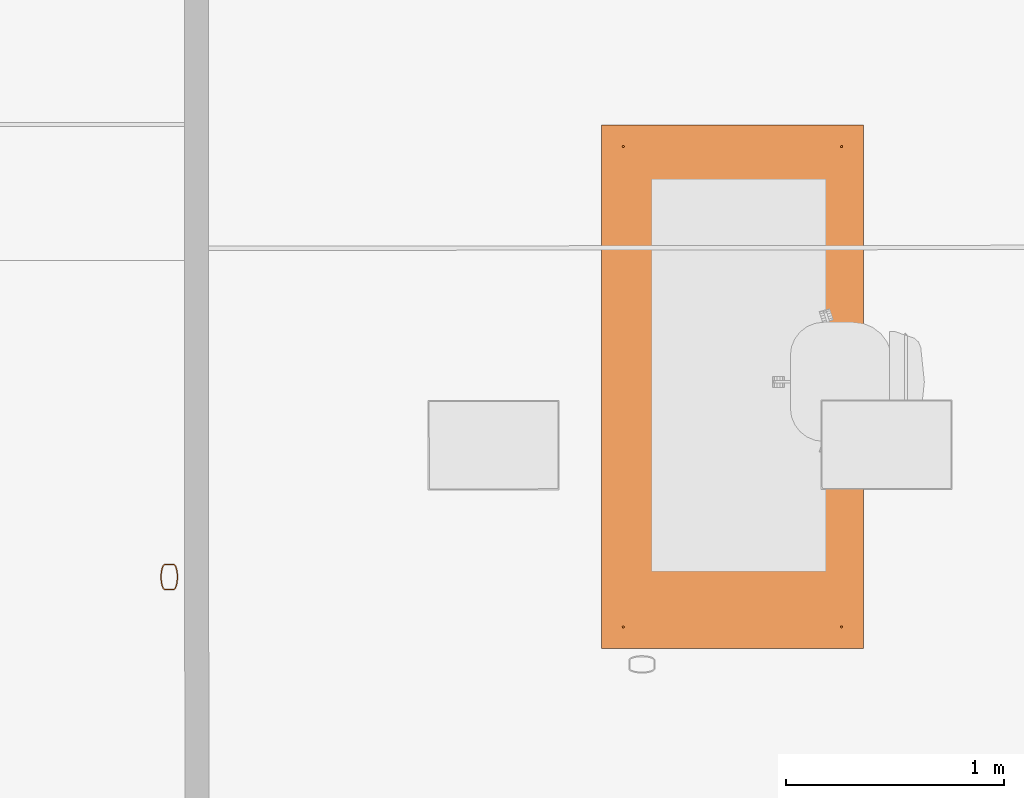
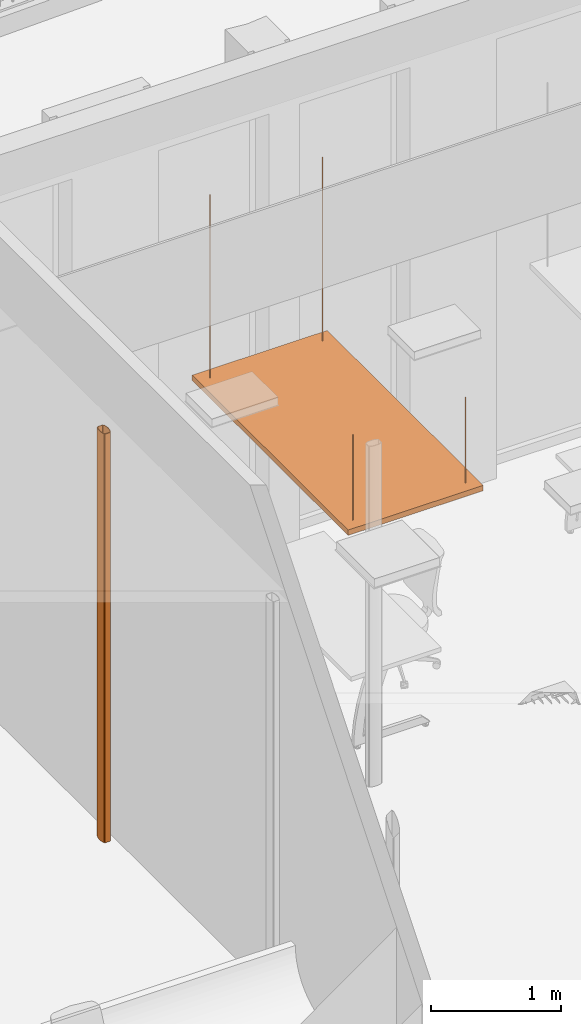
# One storey, part 127 of 128: 2 proxies.
"""IFC2X3 building model written with IfcOpenShell, lengths in metres."""

import ifcopenshell
import ifcopenshell.guid

model = None  # the IFC model being written
_history = None  # IfcOwnerHistory: only IFC2X3 demands one
_inside = {}  # id of a spatial element -> (the spatial element, [elements in it])
_under = {}  # id of a project, library or spatial element -> (it, [spatial elements below it])
_declared = {}  # id of a project -> (the project, [libraries it declares])
_typed = {}  # id of a type object -> (the type object, [elements of that type])
_made_of = {}  # id of a material, layer set ... -> (it, [elements and type objects made of it])


def new_model(schema):
    """Start an empty IFC model of exactly this schema.

    Asked for "IFC4X3", IfcOpenShell would pick the latest addendum, in which some entities
    have other attributes; the version numbers below select the first issue.
    IFC2X3 requires an IfcOwnerHistory on every rooted entity: one is made here for all.
    """
    global model, _history
    if schema == "IFC4X3":
        model = ifcopenshell.file(schema_version=(4, 3, 0, 0))
    else:
        model = ifcopenshell.file(schema=schema)
    _inside.clear()
    _under.clear()
    _declared.clear()
    _typed.clear()
    _made_of.clear()
    _history = None
    if model.schema == "IFC2X3":
        org = make("IfcOrganization", Name="unknown")
        user = make(
            "IfcPersonAndOrganization",
            ThePerson=make("IfcPerson", FamilyName="unknown"),
            TheOrganization=org,
        )
        app = make(
            "IfcApplication",
            ApplicationDeveloper=org,
            Version="unknown",
            ApplicationFullName="unknown",
            ApplicationIdentifier="unknown",
        )
        _history = make(
            "IfcOwnerHistory",
            OwningUser=user,
            OwningApplication=app,
            ChangeAction="ADDED",
            CreationDate=0,
        )
    return model


def make(cls, **values):
    """One entity of the class cls with the attributes given. An attribute that is None is left unset."""
    return model.create_entity(
        cls, **{name: value for name, value in values.items() if value is not None}
    )


def entity(cls, *values):
    """Any entity or typed value of the class cls, its attributes in the order of the schema. None: left unset."""
    e = model.create_entity(cls)
    for i, value in enumerate(values):
        if value is not None:
            e[i] = value
    return e


def rooted(cls, **values):
    """An entity with a GlobalId (a new one), such as an element, a storey or a relation."""
    return make(cls, GlobalId=ifcopenshell.guid.new(), OwnerHistory=_history, **values)


def si_unit(unit_type, name, prefix=None):
    """IfcSIUnit, for example si_unit("LENGTHUNIT", "METRE", prefix="MILLI")."""
    return make("IfcSIUnit", UnitType=unit_type, Prefix=prefix, Name=name)


def converted_unit(unit_type, name, factor, base, dimensions=None, offset=None):
    """IfcConversionBasedUnit, such as the inch: factor (a typed value) times the base unit."""
    return make(
        "IfcConversionBasedUnit"
        if offset is None
        else "IfcConversionBasedUnitWithOffset",
        ConversionOffset=offset,
        Dimensions=None
        if dimensions is None
        else entity("IfcDimensionalExponents", *dimensions),
        UnitType=unit_type,
        Name=name,
        ConversionFactor=make(
            "IfcMeasureWithUnit", ValueComponent=factor, UnitComponent=base
        ),
    )


def derived_unit(unit_type, elements):
    """IfcDerivedUnit: a product of units, each with its exponent."""
    return make(
        "IfcDerivedUnit",
        Elements=[
            make("IfcDerivedUnitElement", Unit=unit, Exponent=power)
            for unit, power in elements
        ],
        UnitType=unit_type,
    )


def assignment(units):
    """IfcUnitAssignment: the units of a project."""
    return None if units is None else make("IfcUnitAssignment", Units=units)


def point(xyz):
    """IfcCartesianPoint."""
    return None if xyz is None else make("IfcCartesianPoint", Coordinates=xyz)


def direction(xyz):
    """IfcDirection."""
    return None if xyz is None else make("IfcDirection", DirectionRatios=xyz)


def frame(location, z_axis=None, x_axis=None):
    """IfcAxis2Placement3D, a coordinate frame: its origin and axes. An axis left out is left unset."""
    return make(
        "IfcAxis2Placement3D",
        Location=point(location),
        Axis=direction(z_axis),
        RefDirection=direction(x_axis),
    )


def frame_2d(location, x_axis=None):
    """IfcAxis2Placement2D, a coordinate frame in the plane: its origin and x axis."""
    return make(
        "IfcAxis2Placement2D", Location=point(location), RefDirection=direction(x_axis)
    )


def origin():
    """The frame at (0, 0, 0) with its axes left unset."""
    return frame((0.0, 0.0, 0.0))


def origin_2d_with_axis():
    """The frame at (0, 0) in the plane with the x axis (1, 0) written out."""
    return frame_2d((0.0, 0.0), x_axis=(1.0, 0.0))


def place(relative_to, where):
    """IfcLocalPlacement: puts the frame where relative to a parent placement (None: the world)."""
    return make(
        "IfcLocalPlacement", PlacementRelTo=relative_to, RelativePlacement=where
    )


def context(
    kind, dimensions, precision=None, world=None, true_north=None, identifier=None
):
    """IfcGeometricRepresentationContext, for example the 3D "Model" context."""
    return make(
        "IfcGeometricRepresentationContext",
        ContextIdentifier=identifier,
        ContextType=kind,
        CoordinateSpaceDimension=dimensions,
        Precision=precision,
        WorldCoordinateSystem=world,
        TrueNorth=true_north,
    )


def subcontext(parent, identifier, kind, view, scale=None):
    """IfcGeometricRepresentationSubContext, for example "Body" below "Model"."""
    return make(
        "IfcGeometricRepresentationSubContext",
        ContextIdentifier=identifier,
        ContextType=kind,
        ParentContext=parent,
        TargetScale=scale,
        TargetView=view,
    )


def project(units=None, contexts=None):
    """IfcProject with its units and contexts."""
    return rooted(
        "IfcProject",
        Name="project",
        RepresentationContexts=contexts,
        UnitsInContext=assignment(units),
    )


def spatial(cls, under=None, at=None, **own):
    """A site, building, storey or space (cls), placed at a placement, below another one or the project."""
    s = rooted(cls, ObjectPlacement=at, **own)
    if under is not None:
        _under.setdefault(under.id(), (under, []))[1].append(s)
    return s


def polyline(points):
    """IfcPolyline through the points."""
    return make("IfcPolyline", Points=[point(p) for p in points])


def profile(cls, at=None, kind="AREA", **sizes):
    """A parametric profile (cls). Its sizes go by their IFC names, for example OverallWidth=200.0."""
    return make(cls, ProfileType=kind, Position=at, **sizes)


def rectangle(**sizes):
    """IfcRectangleProfileDef."""
    return profile("IfcRectangleProfileDef", **sizes)


def circle(**sizes):
    """IfcCircleProfileDef."""
    return profile("IfcCircleProfileDef", **sizes)


def outline(outer, holes=None, kind="AREA"):
    """IfcArbitraryClosedProfileDef: a profile drawn as a closed curve; with holes, ...WithVoids."""
    if holes is None:
        return make("IfcArbitraryClosedProfileDef", ProfileType=kind, OuterCurve=outer)
    return make(
        "IfcArbitraryProfileDefWithVoids",
        ProfileType=kind,
        OuterCurve=outer,
        InnerCurves=holes,
    )


def extrude(swept, where, along, depth):
    """IfcExtrudedAreaSolid: the profile swept, set in the frame where, extruded along a direction by depth."""
    return make(
        "IfcExtrudedAreaSolid",
        SweptArea=swept,
        Position=where,
        ExtrudedDirection=direction(along),
        Depth=depth,
    )


def shape(context_of_items, identifier, shape_type, items):
    """IfcShapeRepresentation: the items that make up one representation, for example the "Body"."""
    return make(
        "IfcShapeRepresentation",
        ContextOfItems=context_of_items,
        RepresentationIdentifier=identifier,
        RepresentationType=shape_type,
        Items=items,
    )


def source(mapping_origin, context_of_items, identifier, shape_type, items):
    """IfcRepresentationMap: a shape defined once, which mapped items show again and again."""
    return make(
        "IfcRepresentationMap",
        MappingOrigin=mapping_origin,
        MappedRepresentation=shape(context_of_items, identifier, shape_type, items),
    )


def transform(
    local_origin,
    x_axis=None,
    y_axis=None,
    z_axis=None,
    scale=None,
    scale2=None,
    scale3=None,
    uniform=True,
):
    """IfcCartesianTransformationOperator3D, or its non-uniform kind. x_axis, y_axis, z_axis: its Axis1, 2, 3."""
    if uniform:
        return make(
            "IfcCartesianTransformationOperator3D",
            Axis1=direction(x_axis),
            Axis2=direction(y_axis),
            LocalOrigin=point(local_origin),
            Scale=scale,
            Axis3=direction(z_axis),
        )
    return make(
        "IfcCartesianTransformationOperator3DnonUniform",
        Axis1=direction(x_axis),
        Axis2=direction(y_axis),
        LocalOrigin=point(local_origin),
        Scale=scale,
        Axis3=direction(z_axis),
        Scale2=scale2,
        Scale3=scale3,
    )


def mapped(mapping_source, mapping_target):
    """IfcMappedItem: shows the shape of a source again, moved by a transform."""
    return make(
        "IfcMappedItem", MappingSource=mapping_source, MappingTarget=mapping_target
    )


def material(Name=None, Category=None):
    """IfcMaterial."""
    return make("IfcMaterial", Name=Name, Category=Category)


def made_of(thing, what):
    """Note that an element or type object is made of a material, layer set ...; save() writes the relation."""
    if what is not None:
        _made_of.setdefault(what.id(), (what, []))[1].append(thing)
    return thing


def type_object(cls, material=None, **own):
    """A type object (cls), such as IfcWallType, which elements share."""
    return made_of(rooted(cls, **own), material)


def type_shapes(of_type, sources):
    """Give a type object the sources (RepresentationMaps) that its elements show as mapped items."""
    of_type.RepresentationMaps = sources


def element(
    cls,
    number,
    at=None,
    inside=None,
    cuts=None,
    type_object=None,
    material=None,
    context=None,
    identifier="Body",
    shape_type=None,
    held_by="IfcProductDefinitionShape",
    body=None,
    shapes=None,
    **own,
):
    """One element of the class cls, such as IfcWall. Its Tag is "e" and its number.

    at: its placement. inside: the storey or other place that contains it. cuts: it is an
    opening in that element (IfcRelVoidsElement). A single representation is given by context,
    identifier, shape_type and body (its items); several are given by shapes. held_by: the class
    of the entity that holds the representations. save() writes the other relations.
    """
    e = rooted(cls, Tag="e%d" % number, ObjectPlacement=at, **own)
    if body is not None:
        shapes = [shape(context, identifier, shape_type, body)]
    if shapes is not None:
        e.Representation = make(held_by, Representations=shapes)
    if inside is not None:
        _inside.setdefault(inside.id(), (inside, []))[1].append(e)
    if cuts is not None:
        rooted(
            "IfcRelVoidsElement", RelatingBuildingElement=cuts, RelatedOpeningElement=e
        )
    if type_object is not None:
        _typed.setdefault(type_object.id(), (type_object, []))[1].append(e)
    return made_of(e, material)


def aggregate(whole, parts):
    """IfcRelAggregates: a whole, such as a stair, and the parts it consists of."""
    return rooted("IfcRelAggregates", RelatingObject=whole, RelatedObjects=parts)


def save(model, path):
    """Write the relations noted so far, then the file.

    IfcRelAggregates (storeys below a building ...), IfcRelContainedInSpatialStructure (elements
    in a storey), IfcRelDefinesByType, IfcRelAssociatesMaterial and IfcRelDeclares: one each for
    every whole, place, type object, material and project.
    """
    for whole, parts in _under.values():
        aggregate(whole, parts)
    for where, things in _inside.values():
        rooted(
            "IfcRelContainedInSpatialStructure",
            RelatedElements=things,
            RelatingStructure=where,
        )
    for kind, things in _typed.values():
        rooted("IfcRelDefinesByType", RelatedObjects=things, RelatingType=kind)
    for what, things in _made_of.values():
        rooted("IfcRelAssociatesMaterial", RelatedObjects=things, RelatingMaterial=what)
    for by, libraries in _declared.values():
        rooted("IfcRelDeclares", RelatingContext=by, RelatedDefinitions=libraries)
    model.write(path)


model = new_model("IFC2X3")

# Units and contexts
model_context = context("Model", 3, precision=1e-05, world=origin(), true_north=direction((6.123031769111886e-17, 1.0)))
body_context = subcontext(model_context, "Body", "Model", "MODEL_VIEW")
ifc_project = project(units=[si_unit("LENGTHUNIT", "METRE"), si_unit("AREAUNIT", "SQUARE_METRE"), converted_unit("PLANEANGLEUNIT", "DEGREE", entity("IfcPlaneAngleMeasure", 0.017453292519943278), si_unit("PLANEANGLEUNIT", "RADIAN"), dimensions=[0, 0, 0, 0, 0, 0, 0]), derived_unit("THERMALTRANSMITTANCEUNIT", [(si_unit("MASSUNIT", "GRAM", prefix="KILO"), 1), (si_unit("THERMODYNAMICTEMPERATUREUNIT", "KELVIN"), -1), (si_unit("TIMEUNIT", "SECOND"), -3)])], contexts=[model_context])

# Site, building, storey
site_placement = place(None, origin())
site = spatial("IfcSite", under=ifc_project, at=site_placement, Name="Default", CompositionType="ELEMENT")
building_placement = place(site_placement, origin())
building = spatial("IfcBuilding", under=site, at=building_placement, CompositionType="ELEMENT")
storey_placement = place(building_placement, origin())
storey = spatial("IfcBuildingStorey", under=building, at=storey_placement, Name="00_RDC CAF", CompositionType="ELEMENT", Elevation=2.4982504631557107e-13)

# Proxies
ifc_material = material(Name="<Unnamed>")
building_element_proxy_type_1 = type_object("IfcBuildingElementProxyType", Name="Eq_Spe_Plafond_Acoustique_Suspendu:Eq_Spe_Plafond_Acoustique_Suspendu", PredefinedType="NOTDEFINED", material=ifc_material)
shared_shape_1 = source(origin(), body_context, "Body", "SweptSolid", [
    extrude(circle(Radius=0.005, at=origin_2d_with_axis()), frame((-1.0999999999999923, -0.5000000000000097, -0.9200000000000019)), (0.0, 0.0, 1.0), 1.72),
    extrude(circle(Radius=0.005, at=origin_2d_with_axis()), frame((-1.0999999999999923, 0.4999999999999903, -0.9200000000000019)), (0.0, 0.0, 1.0), 1.72),
    extrude(circle(Radius=0.005, at=origin_2d_with_axis()), frame((1.1000000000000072, -0.5000000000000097, 0.0)), (0.0, 0.0, 1.0), 0.8),
    extrude(circle(Radius=0.005, at=origin_2d_with_axis()), frame((1.1000000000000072, 0.4999999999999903, 0.0)), (0.0, 0.0, 1.0), 0.8),
    extrude(rectangle(XDim=2.3999999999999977, YDim=1.1999999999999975, at=origin_2d_with_axis()), frame((0.0, 0.0, 0.7999999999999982), z_axis=(0.0, 0.0, 1.0), x_axis=(-1.0, 0.0, 0.0)), (0.0, 0.0, 1.0), 0.05),
])
type_shapes(building_element_proxy_type_1, [shared_shape_1])
proxy_1_placement = place(storey_placement, frame((36.184233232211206, 142.11148300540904, 3.1999999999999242), z_axis=(0.0, 0.0, -1.0), x_axis=(0.0, -1.0, 0.0)))
element("IfcBuildingElementProxy", 1, at=proxy_1_placement, inside=storey, type_object=building_element_proxy_type_1, material=ifc_material, Name="Eq_Spe_Plafond_Acoustique_Suspendu:Eq_Spe_Plafond_Acoustique_Suspendu", ObjectType="Eq_Spe_Plafond_Acoustique_Suspendu:Eq_Spe_Plafond_Acoustique_Suspendu", context=body_context, shape_type="MappedRepresentation", body=[
    mapped(shared_shape_1, transform((0.0, 0.0, 0.0), scale=1.0)),
])
building_element_proxy_type_2 = type_object("IfcBuildingElementProxyType", Name="Eq_Elec_Colonne_Electrique:Eq_Elec_Colonne_Electrique_120x80mm", PredefinedType="NOTDEFINED", material=ifc_material)
shared_shape_2 = source(origin(), body_context, "Body", "SweptSolid", [
    extrude(outline(polyline([(-0.020000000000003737, -0.05999999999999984), (0.019999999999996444, -0.05999999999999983), (0.023128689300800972, -0.05926130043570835), (0.02907980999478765, -0.053460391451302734), (0.03414213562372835, -0.042426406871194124), (0.0378201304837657, -0.027239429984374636), (0.03975376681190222, -0.009386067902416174), (0.03975376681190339, 0.009386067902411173), (0.03782013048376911, 0.02723942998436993), (0.03414213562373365, 0.04242640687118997), (0.029079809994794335, 0.05346039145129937), (0.02312868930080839, 0.05926130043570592), (0.020000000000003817, 0.05999999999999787), (-0.019999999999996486, 0.06000000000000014), (-0.02312868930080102, 0.05926130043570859), (-0.029079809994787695, 0.05346039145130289), (-0.034142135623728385, 0.042426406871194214), (-0.03782013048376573, 0.02723942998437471), (-0.03975376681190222, 0.009386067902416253), (-0.03975376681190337, -0.009386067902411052), (-0.037820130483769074, -0.02723942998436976), (-0.03414213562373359, -0.04242640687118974), (-0.02907980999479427, -0.053460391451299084), (-0.023128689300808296, -0.05926130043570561), (-0.020000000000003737, -0.05999999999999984)]), holes=[polyline([(-0.020000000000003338, -0.054999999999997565), (-0.020774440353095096, -0.05483604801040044), (-0.0220433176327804, -0.05405805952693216), (-0.023758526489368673, -0.05229805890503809), (-0.025667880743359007, -0.04946080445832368), (-0.027588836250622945, -0.04560885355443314), (-0.029398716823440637, -0.04084541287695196), (-0.031022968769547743, -0.03528665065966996), (-0.032410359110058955, -0.029054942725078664), (-0.03352451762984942, -0.02227710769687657), (-0.03433829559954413, -0.015084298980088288), (-0.03483355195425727, -0.007612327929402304), (-0.035000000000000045, 0.0), (-0.03483355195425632, 0.007612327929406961), (-0.03433829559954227, 0.01508429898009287), (-0.033524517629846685, 0.022277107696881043), (-0.03241035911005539, 0.02905494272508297), (-0.031022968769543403, 0.035286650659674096), (-0.02939871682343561, 0.04084541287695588), (-0.027588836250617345, 0.04560885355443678), (-0.025667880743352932, 0.04946080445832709), (-0.02375852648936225, 0.052298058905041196), (-0.022043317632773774, 0.054058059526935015), (-0.020774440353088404, 0.05483604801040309), (-0.019999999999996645, 0.05500000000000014), (0.020000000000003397, 0.05499999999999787), (0.020774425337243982, 0.054836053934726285), (0.022043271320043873, 0.05405809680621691), (0.023758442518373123, 0.05229816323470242), (0.025667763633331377, 0.049461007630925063), (0.02758869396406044, 0.04560918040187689), (0.02939856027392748, 0.04084588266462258), (0.03102280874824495, 0.03528727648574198), (0.0324102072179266, 0.02905573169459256), (0.03352438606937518, 0.022278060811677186), (0.034338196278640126, 0.015085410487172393), (0.03483349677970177, 0.007613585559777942), (0.0349999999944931, 1.3846905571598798e-06), (0.03483361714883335, -0.007610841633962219), (0.03433843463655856, -0.01508274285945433), (0.03352473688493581, -0.022275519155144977), (0.03241066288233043, -0.029053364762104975), (0.031023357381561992, -0.03528513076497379), (0.02939918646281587, -0.04084400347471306), (0.02758937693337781, -0.045607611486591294), (0.025668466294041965, -0.04945978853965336), (0.023759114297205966, -0.05229732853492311), (0.022043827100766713, -0.05405764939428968), (0.02077478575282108, -0.054835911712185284), (0.020000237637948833, -0.05500000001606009), (-0.020000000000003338, -0.054999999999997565)])]), frame((0.0, 0.0, 0.0), z_axis=(0.0, 0.0, 1.0), x_axis=(0.0, -1.0, 0.0)), (0.0, 0.0, 1.0), 3.84),
])
type_shapes(building_element_proxy_type_2, [shared_shape_2])
proxy_2_placement = place(storey_placement, frame((33.60430667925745, 141.24016375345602, 0.0), z_axis=(0.0, 0.0, 1.0), x_axis=(0.0, -1.0, 0.0)))
element("IfcBuildingElementProxy", 2, at=proxy_2_placement, inside=storey, type_object=building_element_proxy_type_2, material=ifc_material, Name="Eq_Elec_Colonne_Electrique:Eq_Elec_Colonne_Electrique_120x80mm", ObjectType="Eq_Elec_Colonne_Electrique:Eq_Elec_Colonne_Electrique_120x80mm", context=body_context, shape_type="MappedRepresentation", body=[
    mapped(shared_shape_2, transform((0.0, 0.0, 0.0), scale=1.0)),
])

save(model, "model.ifc")
